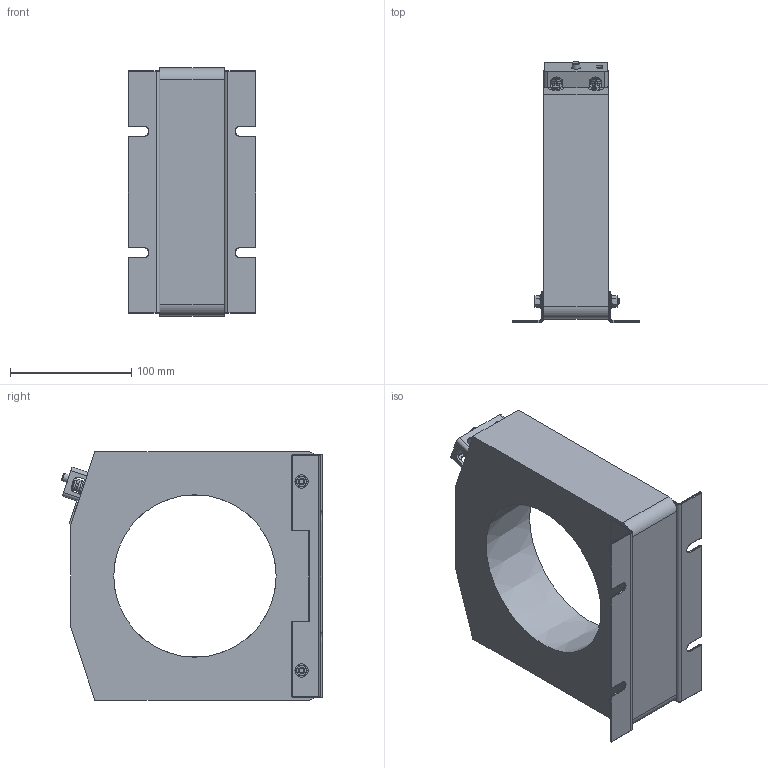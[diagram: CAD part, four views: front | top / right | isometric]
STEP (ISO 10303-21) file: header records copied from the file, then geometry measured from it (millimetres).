
FILE_DESCRIPTION(/* description */ (''),/* implementation_level */ '2;1');
FILE_NAME(/* name */ 'T:\EngMecanica\DESENHOS INVENTOR\Catalogo 2019\Arquivos STEP\KR-901R.stp',/* time_stamp */ '2025-10-01T18:14:54-03:00',/* author */ ('jose.luis'),/* organization */ (''),/* preprocessor_version */ 'ST-DEVELOPER v18.1',/* originating_system */ 'Autodesk Inventor 2021',/* authorisation */ '');
FILE_SCHEMA (('AUTOMOTIVE_DESIGN { 1 0 10303 214 3 1 1 }'));
Products named in the file (15): KR-901R; Corpo; Cantoneira KR-901; Cantoneira KR-901_MIR; Bucha redonda borne; borne quadrado; DIN 976-1 - M5 x 70 - A; DIN 976-1 - M5 x 70 - A_1; NF E25-127 - M5 x 6; NF E25-127 - M5 x 6_1; ANSI B18.22M - 5 N; ANSI/ASME B18.21.1 - 1/4 Hi-Collar. Lock Washers (Inch Series) High-C
ollar Helical Spring Lock Washers; parafuso recartilhado; AS 1112 - M5  Type 5; 167-302 - Protetor de borne - Concessionária
Assembly tree (28 placements, depth 2):
  KR-901R
    Corpo
    Cantoneira KR-901
    Cantoneira KR-901_MIR
    Bucha redonda borne  x2
    borne quadrado
    DIN 976-1 - M5 x 70 - A
    DIN 976-1 - M5 x 70 - A_1
    ANSI B18.22M - 5 N  x6
    AS 1112 - M5  Type 5  x8
    NF E25-127 - M5 x 6
    NF E25-127 - M5 x 6_1
    ANSI/ASME B18.21.1 - 1/4 Hi-Collar. Lock Washers (Inch Series) High-C
ollar Helical Spring Lock Washers  x2
    parafuso recartilhado
    167-302 - Protetor de borne - Concessionária
Bounding box: 105 x 215.27 x 205 mm (x, y, z)
Volume: 1423957.5 mm3; surface area: 167603.3 mm2
Topology: 28 solids, 28 shells, 690 faces, 1566 edges, 952 vertices
Faces by surface type: plane 262, cylinder 176, cone 123, bspline 57, sphere 42, torus 30
Full cylindrical faces by diameter (mm): 3.242 x1, 4 x1, 4.134 x10, 4.9 x1, 5 x10, 5.6 x6, 6.5 x1, 7 x1, 10.77 x1, 11 x10, 13 x5
Entity records: 15573 total; most frequent: CARTESIAN_POINT 3425, DIRECTION 2403, ORIENTED_EDGE 2332, EDGE_CURVE 1166, AXIS2_PLACEMENT_3D 889, VERTEX_POINT 717, LINE 625, VECTOR 625
